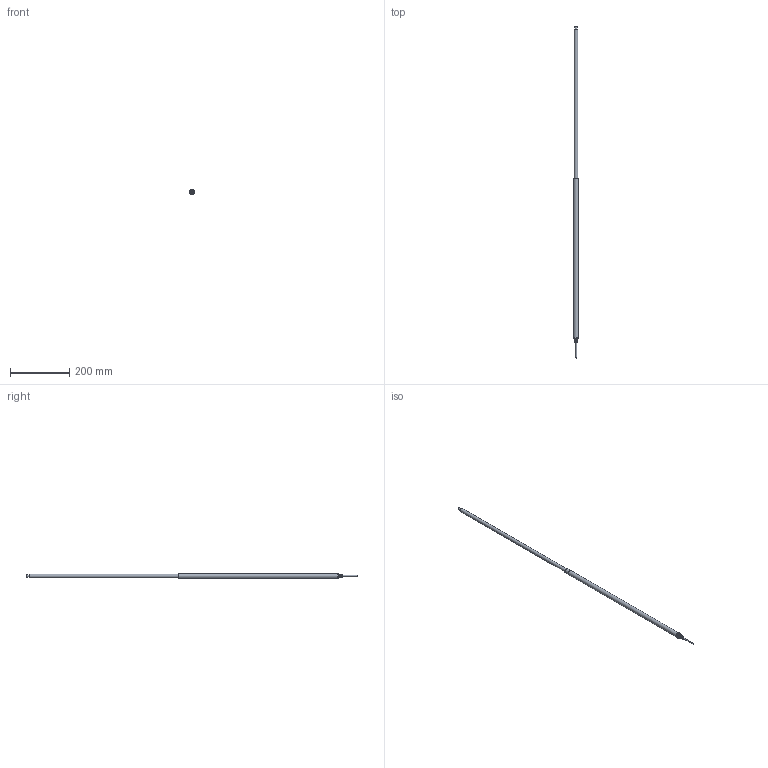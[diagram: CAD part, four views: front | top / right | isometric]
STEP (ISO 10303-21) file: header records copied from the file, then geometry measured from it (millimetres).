
FILE_DESCRIPTION(/* description */ ('Unknown'),/* implementation_level */ '2;1');
FILE_NAME(/* name */ '107.00135 Zylinder CG 1450_ausgefahren',/* time_stamp */ '2018-06-15T14:49:36+02:00',/* author */ ('Unknown'),/* organization */ ('Unknown'),/* preprocessor_version */ 'ST-DEVELOPER v16.7',/* originating_system */ 'DEX',/* authorisation */ $);
FILE_SCHEMA (('AUTOMOTIVE_DESIGN {1 0 10303 214 3 1 1}'));
Length unit declared in the file: millimetre
Products named in the file (9): 107.00135; 121.00005; 142.00021; 125.00021; 115.00007_oa_0; 125.00031; 120.00025; 122.00001; 113.00002_70mm
Assembly tree (8 placements, depth 2):
  107.00135
    121.00005
    142.00021
    125.00021
    115.00007_oa_0
    125.00031
    120.00025
    122.00001
    113.00002_70mm
Bounding box: 19.63 x 1123 x 17 mm (x, y, z)
Volume: 89322.2 mm3; surface area: 76348.8 mm2
Topology: 7 solids, 7 shells, 95 faces, 187 edges, 118 vertices
Faces by surface type: plane 38, cylinder 28, cone 23, torus 5, sphere 1
Full cylindrical faces by diameter (mm): 2.2 x1, 3.5 x1, 4 x1, 4.1 x1, 4.2 x1, 6 x1, 6.917 x2, 7.763 x2, 8 x4, 8.1 x3, 9 x1, 12 x2, 12.5 x1, 13 x2, 13.9 x2, 14 x2, 16 x1
Entity records: 2881 total; most frequent: DIRECTION 402, CARTESIAN_POINT 377, ORIENTED_EDGE 254, AXIS2_PLACEMENT_3D 183, FACE_BOUND 169, EDGE_LOOP 168, EDGE_CURVE 127, VERTEX_POINT 110
